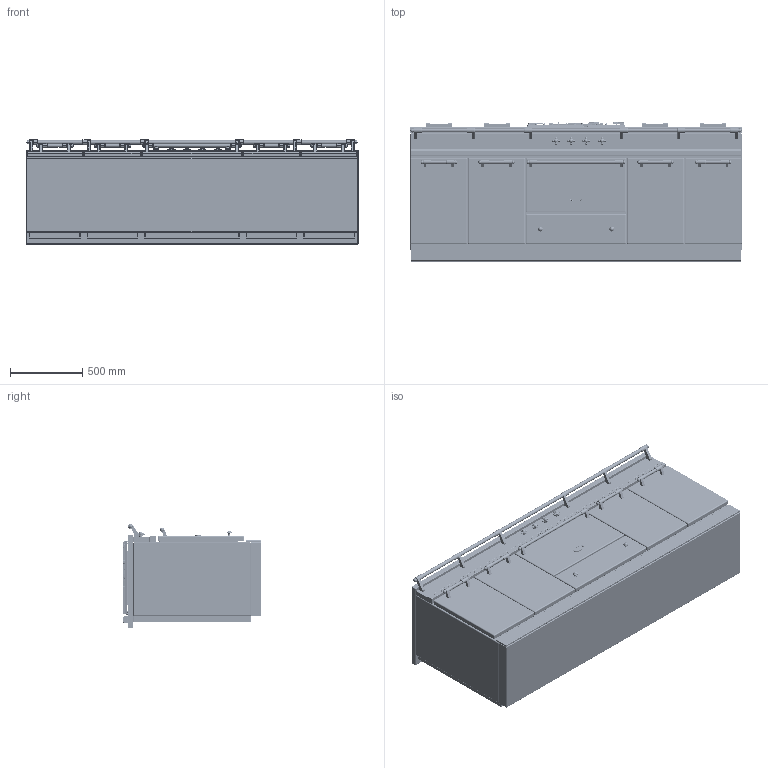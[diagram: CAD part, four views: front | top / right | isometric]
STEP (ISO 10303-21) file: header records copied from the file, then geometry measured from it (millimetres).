
FILE_DESCRIPTION((''),'2;1');
FILE_NAME('LG2331_ASM','2021-12-08T09:14:11',('r.avril'),(''),'CREO PARAMETRIC BY PTC INC, 2017260','CREO PARAMETRIC BY PTC INC, 2017260','');
FILE_SCHEMA(('AP203_CONFIGURATION_CONTROLLED_3D_DESIGN_OF_MECHANICAL_PARTS_AND_ASSEMBLIES_MIM_LF { 1 0 10303 403 2 1 2 }'));
Products named in the file (28): BASE_EXPORT_FONTENAY_LG2331; 65650003; 65650004; 65650006; 65650007; 6531940; 6531941; 6531943; 65049009; 65650001; 6538399; 1931942; 65080022_AF0; 6531942_ASM; BASE_EXPORT_FONTENAY_LG2331_ASM; TABLE_2300_CLASSIQUE_3_FEUX; 5KW; 1_5KW; 3KW; 6537025; 65149005; 90000488_ASM; 6537023; 90000565_ASM; CHEMINEE_2020_LG371_EXPORT_STEP; CHEMINEE_2020_LG182_EXPORT_STEP; TABLE_2300_CLASSIQUE_3_FEUX_ASM; LG2331_ASM
Assembly tree (52 placements, depth 4):
  LG2331_ASM
    BASE_EXPORT_FONTENAY_LG2331_ASM
      BASE_EXPORT_FONTENAY_LG2331
      65650003
      65650004
      65650006  x2
      65650007  x2
      6531940  x5
      6531941  x5
      6531943  x2
      65049009
      65650001
      6531942_ASM  x4
        6538399
        1931942
        65080022_AF0
    TABLE_2300_CLASSIQUE_3_FEUX_ASM
      TABLE_2300_CLASSIQUE_3_FEUX
      5KW
      1_5KW
      3KW
      90000488_ASM  x2
        6537025
        65149005
      90000565_ASM
        6537023
        65149005  x4
      CHEMINEE_2020_LG371_EXPORT_STEP
      CHEMINEE_2020_LG182_EXPORT_STEP  x4
Bounding box: 2305 x 965 x 724 mm (x, y, z)
Volume: 845528977.5 mm3; surface area: 19388486.2 mm2
Topology: 67 solids, 85 shells, 7411 faces, 19252 edges, 11966 vertices
Faces by surface type: plane 2946, cylinder 2597, bspline 862, torus 350, cone 284, sphere 214, extrusion 134, revolution 24
Entity records: 181783 total; most frequent: CARTESIAN_POINT 53689, ORIENTED_EDGE 22254, DIRECTION 20856, EDGE_CURVE 11141, AXIS2_PLACEMENT_3D 7262, VERTEX_POINT 6932, VECTOR 6245, LINE 6195
